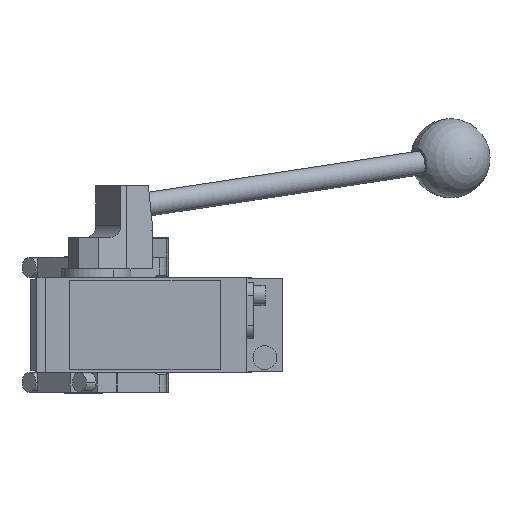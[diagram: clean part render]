
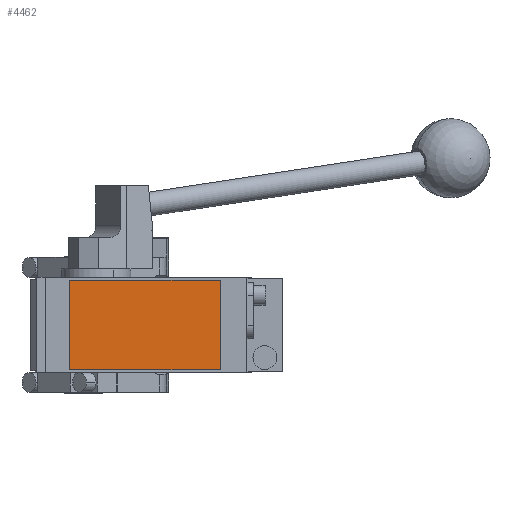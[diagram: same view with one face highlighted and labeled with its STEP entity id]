
A CAD part, front view. The second image highlights one B-rep face of the part: STEP entity #4462.
In plain terms, the highlighted planar face has unit normal (0, -1, 0).
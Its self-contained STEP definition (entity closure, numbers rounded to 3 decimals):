
#48 = CARTESIAN_POINT ( 'NONE',  ( -7., -280.5, -22.5 ) ) ;
#611 = EDGE_CURVE ( 'NONE', #3480, #10733, #9855, .T. ) ;
#717 = DIRECTION ( 'NONE',  ( 0., 0., -1. ) ) ;
#947 = CARTESIAN_POINT ( 'NONE',  ( -7., -280.5, 22.5 ) ) ;
#988 = ORIENTED_EDGE ( 'NONE', *, *, #611, .T. ) ;
#1290 = VECTOR ( 'NONE', #10736, 1000. ) ;
#2386 = EDGE_LOOP ( 'NONE', ( #988, #2647, #4575, #3466 ) ) ;
#2647 = ORIENTED_EDGE ( 'NONE', *, *, #13585, .T. ) ;
#3001 = FACE_OUTER_BOUND ( 'NONE', #2386, .T. ) ;
#3466 = ORIENTED_EDGE ( 'NONE', *, *, #10264, .T. ) ;
#3480 = VERTEX_POINT ( 'NONE', #947 ) ;
#3855 = VECTOR ( 'NONE', #12649, 1000. ) ;
#4432 = DIRECTION ( 'NONE',  ( 0., 0., -1. ) ) ;
#4462 = ADVANCED_FACE ( 'NONE', ( #3001 ), #13295, .T. ) ;
#4575 = ORIENTED_EDGE ( 'NONE', *, *, #6559, .T. ) ;
#6549 = CARTESIAN_POINT ( 'NONE',  ( 0., -280.5, 0. ) ) ;
#6559 = EDGE_CURVE ( 'NONE', #8248, #10279, #9112, .T. ) ;
#7443 = CARTESIAN_POINT ( 'NONE',  ( -7., -280.5, 22.5 ) ) ;
#7529 = DIRECTION ( 'NONE',  ( 0., -1., 0. ) ) ;
#8134 = DIRECTION ( 'NONE',  ( 0., 0., 1. ) ) ;
#8248 = VERTEX_POINT ( 'NONE', #10630 ) ;
#8718 = LINE ( 'NONE', #7443, #1290 ) ;
#9112 = LINE ( 'NONE', #13609, #12184 ) ;
#9176 = VECTOR ( 'NONE', #4432, 1000. ) ;
#9855 = LINE ( 'NONE', #10014, #9176 ) ;
#10014 = CARTESIAN_POINT ( 'NONE',  ( -7., -280.5, 22.5 ) ) ;
#10264 = EDGE_CURVE ( 'NONE', #10279, #3480, #8718, .T. ) ;
#10279 = VERTEX_POINT ( 'NONE', #12982 ) ;
#10630 = CARTESIAN_POINT ( 'NONE',  ( 69., -280.5, -22.5 ) ) ;
#10733 = VERTEX_POINT ( 'NONE', #14551 ) ;
#10736 = DIRECTION ( 'NONE',  ( -1., 0., 0. ) ) ;
#11076 = AXIS2_PLACEMENT_3D ( 'NONE', #6549, #7529, #717 ) ;
#12184 = VECTOR ( 'NONE', #8134, 1000. ) ;
#12649 = DIRECTION ( 'NONE',  ( 1., 0., 0. ) ) ;
#12982 = CARTESIAN_POINT ( 'NONE',  ( 69., -280.5, 22.5 ) ) ;
#13295 = PLANE ( 'NONE',  #11076 ) ;
#13585 = EDGE_CURVE ( 'NONE', #10733, #8248, #13922, .T. ) ;
#13609 = CARTESIAN_POINT ( 'NONE',  ( 69., -280.5, 22.5 ) ) ;
#13922 = LINE ( 'NONE', #48, #3855 ) ;
#14551 = CARTESIAN_POINT ( 'NONE',  ( -7., -280.5, -22.5 ) ) ;
